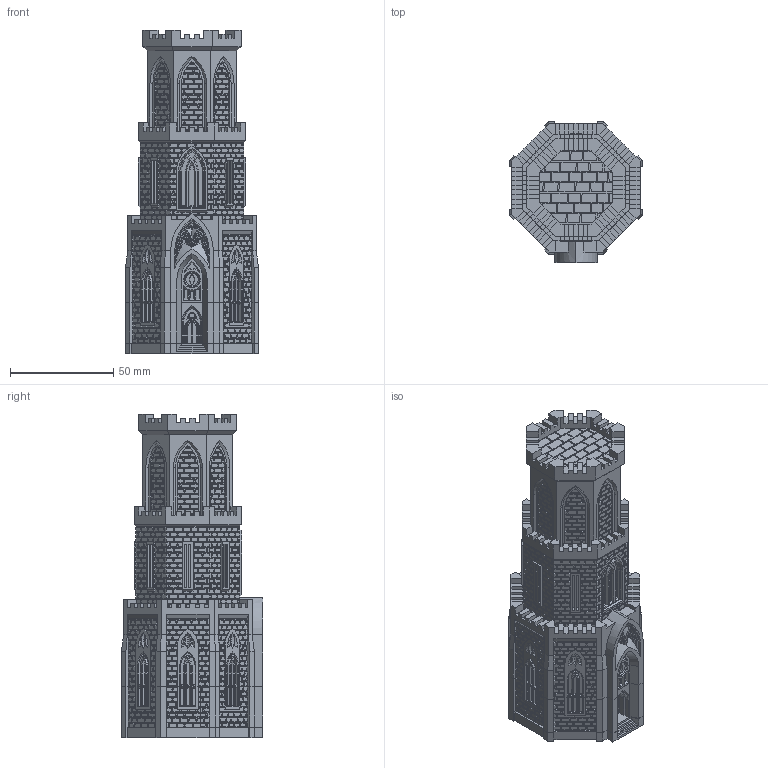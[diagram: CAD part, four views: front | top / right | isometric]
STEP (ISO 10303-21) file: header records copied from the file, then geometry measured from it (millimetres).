
FILE_DESCRIPTION(/* description */ (''),/* implementation_level */ '2;1');
FILE_NAME(/* name */ (''),/* time_stamp */ (''),/* author */ (''),/* organization */ (''),/* preprocessor_version */ 'ST-DEVELOPER v19.2',/* originating_system */ 'Autodesk Translation Framework v11.17.0.187',/* authorisation */ '');
FILE_SCHEMA (('AUTOMOTIVE_DESIGN { 1 0 10303 214 3 1 1 }'));
Length unit declared in the file: millimetre
Products named in the file (1): Dracula Tower
Bounding box: 64.36 x 68.36 x 157 mm (x, y, z)
Volume: 224385.5 mm3; surface area: 101624.5 mm2
Topology: 6 solids, 6 shells, 12285 faces, 32219 edges, 20980 vertices
Faces by surface type: plane 11876, cone 214, cylinder 195
Full cylindrical faces by diameter (mm): 2.5 x1, 3 x8, 6 x2, 6.2 x2, 10 x1, 10.4 x1, 20 x1, 37.355 x1, 42.355 x1, 42.755 x2
Entity records: 369433 total; most frequent: CARTESIAN_POINT 66220, ORIENTED_EDGE 64438, DIRECTION 57825, EDGE_CURVE 32219, LINE 30721, VECTOR 30721, VERTEX_POINT 20980, AXIS2_PLACEMENT_3D 13552
